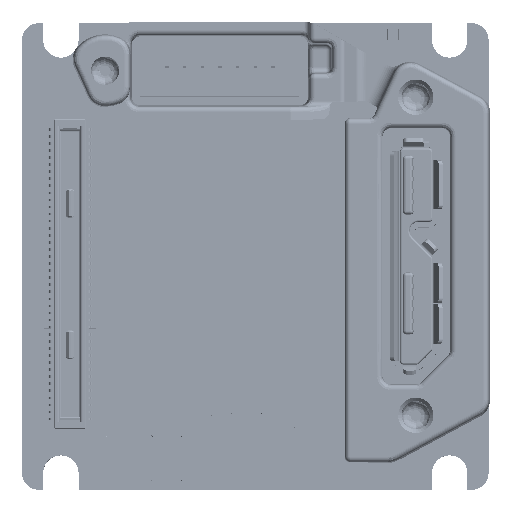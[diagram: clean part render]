
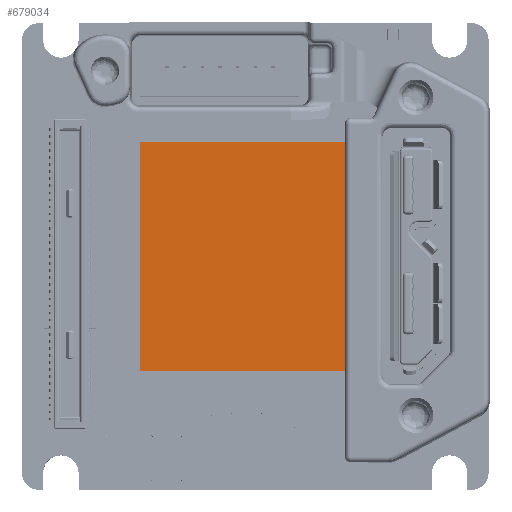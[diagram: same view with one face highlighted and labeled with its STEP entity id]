
A CAD part, top view. The second image highlights one B-rep face of the part: STEP entity #679034.
In plain terms, the highlighted planar face has unit normal (0, 0, 1).
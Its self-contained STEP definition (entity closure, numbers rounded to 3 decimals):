
#3659 = VERTEX_POINT ( 'NONE', #346418 ) ;
#4449 = EDGE_CURVE ( 'NONE', #183327, #276339, #364990, .T. ) ;
#33659 = CARTESIAN_POINT ( 'NONE',  ( -6.5, -6.5, 6.162 ) ) ;
#98307 = DIRECTION ( 'NONE',  ( 0., 1., 0. ) ) ;
#120377 = VECTOR ( 'NONE', #593850, 1000. ) ;
#139849 = LINE ( 'NONE', #432299, #250621 ) ;
#183327 = VERTEX_POINT ( 'NONE', #597603 ) ;
#204397 = EDGE_CURVE ( 'NONE', #3659, #705032, #224141, .T. ) ;
#223427 = PLANE ( 'NONE',  #432995 ) ;
#224141 = LINE ( 'NONE', #227844, #435695 ) ;
#227844 = CARTESIAN_POINT ( 'NONE',  ( -6.5, 6.5, 6.162 ) ) ;
#250621 = VECTOR ( 'NONE', #98307, 1000. ) ;
#253136 = DIRECTION ( 'NONE',  ( 0., 0., -1. ) ) ;
#276339 = VERTEX_POINT ( 'NONE', #33659 ) ;
#279050 = ORIENTED_EDGE ( 'NONE', *, *, #4449, .F. ) ;
#283430 = DIRECTION ( 'NONE',  ( 0., -1., 0. ) ) ;
#284260 = DIRECTION ( 'NONE',  ( 1., 0., 0. ) ) ;
#344446 = ORIENTED_EDGE ( 'NONE', *, *, #369588, .F. ) ;
#346418 = CARTESIAN_POINT ( 'NONE',  ( -6.5, 6.5, 6.162 ) ) ;
#364990 = LINE ( 'NONE', #522761, #120377 ) ;
#369588 = EDGE_CURVE ( 'NONE', #705032, #183327, #504853, .T. ) ;
#386937 = CARTESIAN_POINT ( 'NONE',  ( 6.5, 6.5, 6.162 ) ) ;
#432299 = CARTESIAN_POINT ( 'NONE',  ( -6.5, -6.5, 6.162 ) ) ;
#432995 = AXIS2_PLACEMENT_3D ( 'NONE', #710841, #253136, #478237 ) ;
#435695 = VECTOR ( 'NONE', #284260, 1000. ) ;
#478237 = DIRECTION ( 'NONE',  ( 0., -1., 0. ) ) ;
#486389 = EDGE_CURVE ( 'NONE', #276339, #3659, #139849, .T. ) ;
#499728 = EDGE_LOOP ( 'NONE', ( #279050, #344446, #723855, #517289 ) ) ;
#504853 = LINE ( 'NONE', #568671, #738176 ) ;
#517289 = ORIENTED_EDGE ( 'NONE', *, *, #486389, .F. ) ;
#522761 = CARTESIAN_POINT ( 'NONE',  ( 6.5, -6.5, 6.162 ) ) ;
#565059 = FACE_OUTER_BOUND ( 'NONE', #499728, .T. ) ;
#568671 = CARTESIAN_POINT ( 'NONE',  ( 6.5, 6.5, 6.162 ) ) ;
#593850 = DIRECTION ( 'NONE',  ( -1., 0., 0. ) ) ;
#597603 = CARTESIAN_POINT ( 'NONE',  ( 6.5, -6.5, 6.162 ) ) ;
#679034 = ADVANCED_FACE ( 'NONE', ( #565059 ), #223427, .F. ) ;
#705032 = VERTEX_POINT ( 'NONE', #386937 ) ;
#710841 = CARTESIAN_POINT ( 'NONE',  ( 0., 0., 6.162 ) ) ;
#723855 = ORIENTED_EDGE ( 'NONE', *, *, #204397, .F. ) ;
#738176 = VECTOR ( 'NONE', #283430, 1000. ) ;
